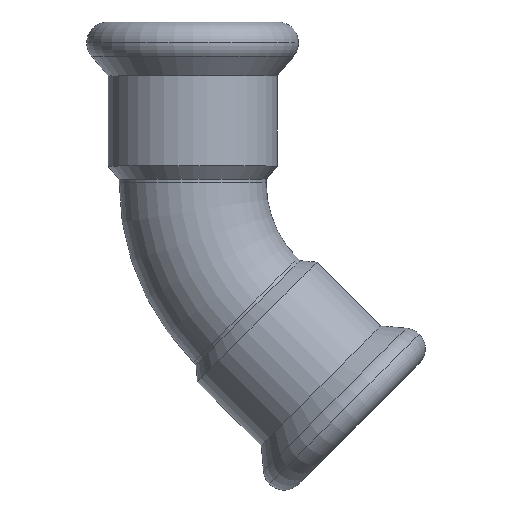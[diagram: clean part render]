
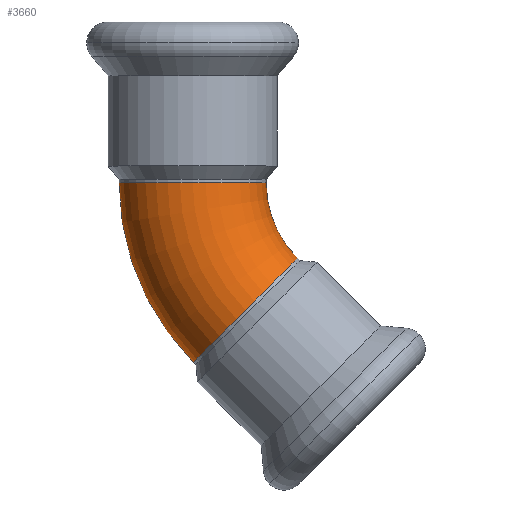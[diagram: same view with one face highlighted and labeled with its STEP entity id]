
A CAD part, top view. The second image highlights one B-rep face of the part: STEP entity #3660.
In plain terms, the highlighted toroidal (fillet/blend) face has major radius 27 mm and minor radius 11 mm.
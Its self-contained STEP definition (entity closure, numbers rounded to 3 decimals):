
#3190=CARTESIAN_POINT('',(-292.291,40.918,0.));
#3200=DIRECTION('',(0.,0.,1.));
#3210=DIRECTION('',(-1.,0.,0.));
#3220=AXIS2_PLACEMENT_3D('',#3190,#3200,#3210);
#3230=TOROIDAL_SURFACE('',#3220,27.,11.);
#3240=CARTESIAN_POINT('',(-292.291,40.918,
0.));
#3250=DIRECTION('',(0.,0.,1.));
#3260=DIRECTION('',(-1.,0.,0.));
#3270=AXIS2_PLACEMENT_3D('',#3240,#3250,#3260);
#3280=CIRCLE('',#3270,38.);
#3290=CARTESIAN_POINT('',(-330.291,40.918,
0.));
#3300=VERTEX_POINT('',#3290);
#3310=CARTESIAN_POINT('',(-319.161,14.048,
0.));
#3320=VERTEX_POINT('',#3310);
#3330=EDGE_CURVE('',#3300,#3320,#3280,.T.);
#3340=ORIENTED_EDGE('',*,*,#3330,.T.);
#3350=CARTESIAN_POINT('',(-319.291,40.918,0.));
#3360=DIRECTION('',(0.,-1.,0.));
#3370=DIRECTION('',(-1.,0.,0.));
#3380=AXIS2_PLACEMENT_3D('',#3350,#3360,#3370);
#3390=CIRCLE('',#3380,11.);
#3400=CARTESIAN_POINT('',(-319.291,40.918,11.));
#3410=VERTEX_POINT('',#3400);
#3420=EDGE_CURVE('',#3410,#3300,#3390,.T.);
#3430=ORIENTED_EDGE('',*,*,#3420,.T.);
#3440=CARTESIAN_POINT('',(-308.291,40.918,
0.));
#3450=VERTEX_POINT('',#3440);
#3460=EDGE_CURVE('',#3450,#3410,#3390,.T.);
#3470=ORIENTED_EDGE('',*,*,#3460,.T.);
#3480=CARTESIAN_POINT('',(-292.291,40.918,
0.));
#3490=DIRECTION('',(0.,0.,1.));
#3500=DIRECTION('',(-1.,0.,0.));
#3510=AXIS2_PLACEMENT_3D('',#3480,#3490,#3500);
#3520=CIRCLE('',#3510,16.);
#3530=CARTESIAN_POINT('',(-303.605,29.605,
0.));
#3540=VERTEX_POINT('',#3530);
#3550=EDGE_CURVE('',#3450,#3540,#3520,.T.);
#3560=ORIENTED_EDGE('',*,*,#3550,.F.);
#3570=CARTESIAN_POINT('',(-311.383,21.826,0.));
#3580=DIRECTION('',(0.707,-0.707,0.));
#3590=DIRECTION('',(-0.707,-0.707,0.));
#3600=AXIS2_PLACEMENT_3D('',#3570,#3580,#3590);
#3610=CIRCLE('',#3600,11.);
#3620=EDGE_CURVE('',#3540,#3320,#3610,.T.);
#3630=ORIENTED_EDGE('',*,*,#3620,.F.);
#3640=EDGE_LOOP('',(#3630,#3560,#3470,#3430,#3340));
#3650=FACE_OUTER_BOUND('',#3640,.T.);
#3660=ADVANCED_FACE('',(#3650),#3230,.T.);
